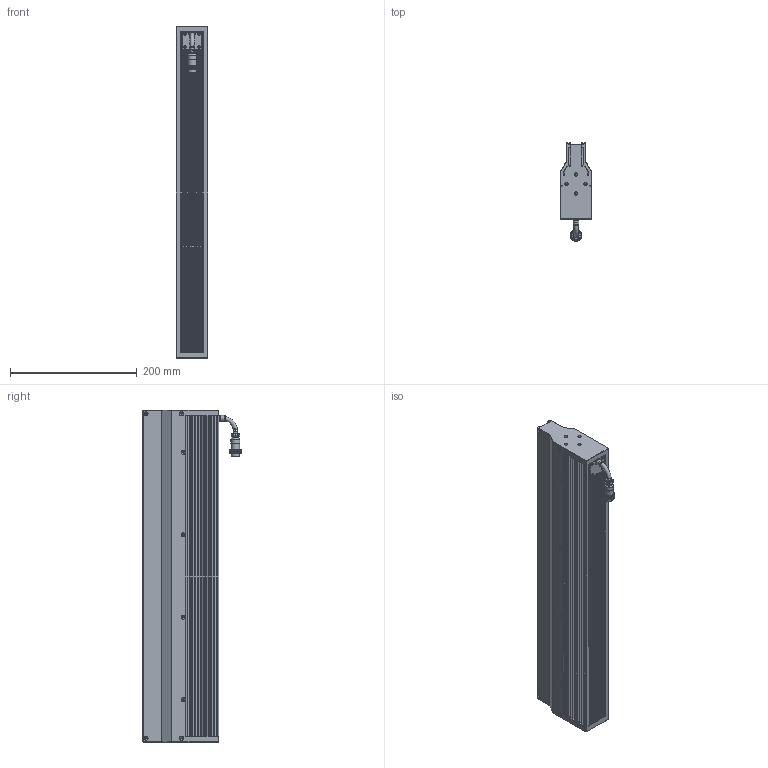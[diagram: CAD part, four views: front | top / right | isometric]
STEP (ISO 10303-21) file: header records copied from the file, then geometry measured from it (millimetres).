
FILE_DESCRIPTION (( 'STEP AP214' ), '1' );
FILE_NAME ('OPT-LSNL524-W-V1.1尨砩芞.STEP', '2025-02-18T02:39:16', ( '' ), ( '' ), 'SwSTEP 2.0', 'SolidWorks 2016', '' );
FILE_SCHEMA (( 'AUTOMOTIVE_DESIGN' ));
Length unit declared in the file: millimetre
Products named in the file (1): OPT-LSNL524-W-V1.1尨砩芞
Bounding box: 50.02 x 155.15 x 524 mm (x, y, z)
Volume: 1896735.1 mm3; surface area: 625549.9 mm2
Topology: 5 solids, 10 shells, 3606 faces, 8215 edges, 4639 vertices
Faces by surface type: bspline 2059, cylinder 757, plane 743, cone 39, torus 8
Full cylindrical faces by diameter (mm): 0.95 x6, 1.1 x2, 1.4 x2, 2 x4, 2.5 x10, 3 x12, 3.4 x16, 3.5 x4, 5 x8, 6.4 x3, 7.5 x1, 8.6 x1, 9.3 x1, 9.8 x1, 10 x1, 13.2 x1, 14 x1, 16.1 x1
Entity records: 126206 total; most frequent: CARTESIAN_POINT 64840, ORIENTED_EDGE 16052, EDGE_CURVE 8026, DIRECTION 5946, B_SPLINE_CURVE_WITH_KNOTS 5591, VERTEX_POINT 4576, EDGE_LOOP 3798, FACE_OUTER_BOUND 3689
